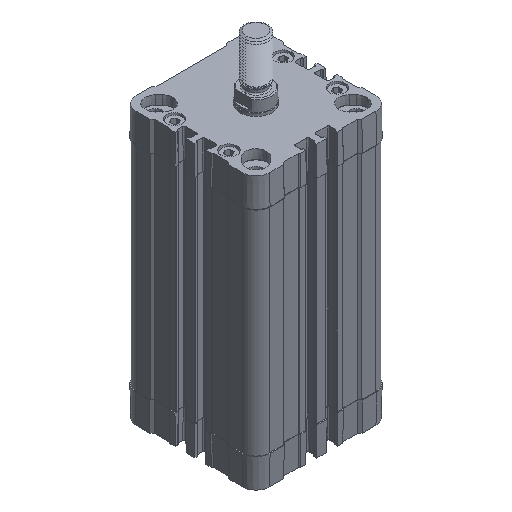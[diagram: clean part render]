
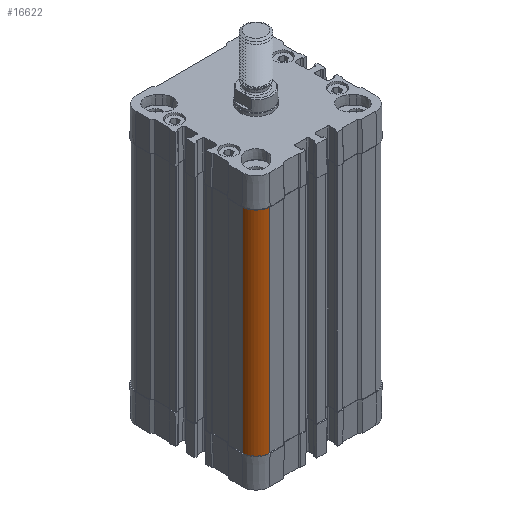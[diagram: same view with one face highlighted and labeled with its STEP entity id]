
A CAD part, isometric view. The second image highlights one B-rep face of the part: STEP entity #16622.
In plain terms, the highlighted cylindrical face has radius 6.8 mm (diameter 13.6 mm), a partial arc.
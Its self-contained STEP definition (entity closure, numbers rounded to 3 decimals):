
#16580 = VERTEX_POINT ( 'NONE', #25425 ) ;
#16585 = EDGE_CURVE ( 'NONE', #16586, #16580, #25397, .T. ) ;
#16586 = VERTEX_POINT ( 'NONE', #25392 ) ;
#16595 = EDGE_LOOP ( 'NONE', ( #16624, #16629, #16634, #16639 ) ) ;
#16622 = ADVANCED_FACE ( 'NONE', ( #25452 ), #25450, .T. ) ;
#16624 = ORIENTED_EDGE ( 'NONE', *, *, #16626, .F. ) ;
#16626 = EDGE_CURVE ( 'NONE', #16627, #16580, #25556, .T. ) ;
#16627 = VERTEX_POINT ( 'NONE', #25550 ) ;
#16629 = ORIENTED_EDGE ( 'NONE', *, *, #16631, .F. ) ;
#16631 = EDGE_CURVE ( 'NONE', #16632, #16627, #25545, .T. ) ;
#16632 = VERTEX_POINT ( 'NONE', #25537 ) ;
#16634 = ORIENTED_EDGE ( 'NONE', *, *, #16636, .T. ) ;
#16636 = EDGE_CURVE ( 'NONE', #16632, #16586, #25532, .T. ) ;
#16639 = ORIENTED_EDGE ( 'NONE', *, *, #16585, .T. ) ;
#25392 = CARTESIAN_POINT ( 'NONE',  ( -26.4, -33.2, -106.3 ) ) ;
#25393 = DIRECTION ( 'NONE',  ( 0., 0., 1. ) ) ;
#25395 = VECTOR ( 'NONE', #25393, 1000. ) ;
#25396 = CARTESIAN_POINT ( 'NONE',  ( -26.4, -33.2, -106.3 ) ) ;
#25397 = LINE ( 'NONE', #25396, #25395 ) ;
#25425 = CARTESIAN_POINT ( 'NONE',  ( -26.4, -33.2, 0. ) ) ;
#25445 = DIRECTION ( 'NONE',  ( 0., 0., 1. ) ) ;
#25449 = CARTESIAN_POINT ( 'NONE',  ( -26.4, -26.4, -106.3 ) ) ;
#25450 = CYLINDRICAL_SURFACE ( 'NONE', #25586, 6.8 ) ;
#25452 = FACE_OUTER_BOUND ( 'NONE', #16595, .T. ) ;
#25525 = DIRECTION ( 'NONE',  ( -1., 0., 0. ) ) ;
#25527 = DIRECTION ( 'NONE',  ( 0., 0., 1. ) ) ;
#25529 = CARTESIAN_POINT ( 'NONE',  ( -26.4, -26.4, -106.3 ) ) ;
#25530 = AXIS2_PLACEMENT_3D ( 'NONE', #25529, #25527, #25525 ) ;
#25532 = CIRCLE ( 'NONE', #25530, 6.8 ) ;
#25537 = CARTESIAN_POINT ( 'NONE',  ( -33.2, -26.4, -106.3 ) ) ;
#25540 = DIRECTION ( 'NONE',  ( 0., 0., 1. ) ) ;
#25541 = VECTOR ( 'NONE', #25540, 1000. ) ;
#25543 = CARTESIAN_POINT ( 'NONE',  ( -33.2, -26.4, -106.3 ) ) ;
#25545 = LINE ( 'NONE', #25543, #25541 ) ;
#25550 = CARTESIAN_POINT ( 'NONE',  ( -33.2, -26.4, 0. ) ) ;
#25552 = DIRECTION ( 'NONE',  ( -1., 0., 0. ) ) ;
#25554 = DIRECTION ( 'NONE',  ( 0., 0., 1. ) ) ;
#25555 = AXIS2_PLACEMENT_3D ( 'NONE', #25569, #25554, #25552 ) ;
#25556 = CIRCLE ( 'NONE', #25555, 6.8 ) ;
#25569 = CARTESIAN_POINT ( 'NONE',  ( -26.4, -26.4, 0. ) ) ;
#25584 = DIRECTION ( 'NONE',  ( 1., 0., 0. ) ) ;
#25586 = AXIS2_PLACEMENT_3D ( 'NONE', #25449, #25445, #25584 ) ;
